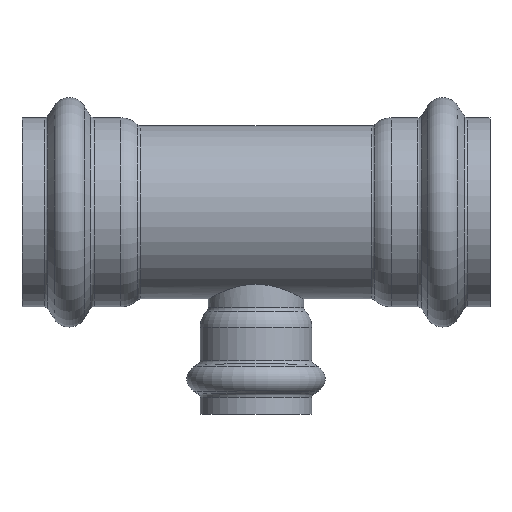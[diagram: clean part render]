
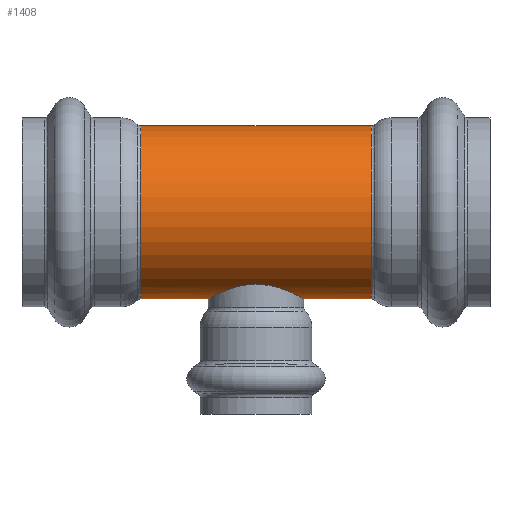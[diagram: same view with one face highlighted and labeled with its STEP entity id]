
A CAD part, top view. The second image highlights one B-rep face of the part: STEP entity #1408.
In plain terms, the highlighted cylindrical face has radius 30.163 mm (diameter 60.325 mm), a full revolution.
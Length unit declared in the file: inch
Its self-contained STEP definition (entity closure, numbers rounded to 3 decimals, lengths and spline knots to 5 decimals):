
#134=FACE_OUTER_BOUND('',#197,.T.);
#197=EDGE_LOOP('',(#1132,#1133,#1134,#1135,#1136,#1137,#1138,#1139,#1140,
#1141,#1142,#1143,#1144,#1145));
#334=CIRCLE('',#1605,1.1875);
#335=CIRCLE('',#1606,1.1875);
#336=CIRCLE('',#1607,1.1875);
#337=CIRCLE('',#1609,1.1875);
#338=CIRCLE('',#1610,1.1875);
#339=CIRCLE('',#1611,1.1875);
#420=LINE('',#2662,#450);
#421=LINE('',#2663,#451);
#450=VECTOR('',#2052,1.1875);
#451=VECTOR('',#2053,1.1875);
#460=B_SPLINE_CURVE_WITH_KNOTS('',3,(#2252,#2253,#2254,#2255,#2256,#2257,
#2258,#2259,#2260,#2261,#2262,#2263,#2264,#2265,#2266,#2267),
 .UNSPECIFIED.,.F.,.F.,(4,2,2,2,2,2,2,4),(0.,0.32343,0.64685,
1.29371,1.61572,1.93773,2.25974,2.58175),
 .UNSPECIFIED.);
#461=B_SPLINE_CURVE_WITH_KNOTS('',3,(#2269,#2270,#2271,#2272,#2273,#2274,
#2275,#2276,#2277,#2278,#2279,#2280,#2281,#2282,#2283,#2284),
 .UNSPECIFIED.,.F.,.F.,(4,2,2,2,2,2,2,4),(7.74526,8.06727,
8.38928,8.71129,9.0333,9.68016,10.00358,
10.32701),.UNSPECIFIED.);
#462=B_SPLINE_CURVE_WITH_KNOTS('',3,(#2286,#2287,#2288,#2289,#2290,#2291,
#2292,#2293,#2294,#2295,#2296,#2297,#2298,#2299,#2300,#2301),
 .UNSPECIFIED.,.F.,.F.,(4,2,2,2,2,2,2,4),(5.16351,5.48693,
5.81036,6.45721,6.77923,7.10124,7.42325,
7.74526),.UNSPECIFIED.);
#463=B_SPLINE_CURVE_WITH_KNOTS('',3,(#2307,#2308,#2309,#2310,#2311,#2312,
#2313,#2314,#2315,#2316,#2317,#2318,#2319,#2320,#2321,#2322),
 .UNSPECIFIED.,.F.,.F.,(4,2,2,2,2,2,2,4),(2.58175,2.90376,
3.22577,3.54778,3.8698,4.51665,4.84008,
5.16351),.UNSPECIFIED.);
#468=VERTEX_POINT('',#2250);
#469=VERTEX_POINT('',#2251);
#470=VERTEX_POINT('',#2268);
#471=VERTEX_POINT('',#2285);
#572=VERTEX_POINT('',#2649);
#573=VERTEX_POINT('',#2651);
#574=VERTEX_POINT('',#2653);
#575=VERTEX_POINT('',#2657);
#576=VERTEX_POINT('',#2658);
#577=VERTEX_POINT('',#2660);
#628=EDGE_CURVE('',#468,#469,#460,.T.);
#629=EDGE_CURVE('',#470,#468,#461,.T.);
#630=EDGE_CURVE('',#471,#470,#462,.T.);
#634=EDGE_CURVE('',#469,#471,#463,.T.);
#772=EDGE_CURVE('',#573,#572,#334,.T.);
#773=EDGE_CURVE('',#574,#573,#335,.T.);
#774=EDGE_CURVE('',#572,#574,#336,.T.);
#775=EDGE_CURVE('',#575,#576,#337,.T.);
#776=EDGE_CURVE('',#577,#575,#338,.T.);
#777=EDGE_CURVE('',#577,#469,#420,.T.);
#778=EDGE_CURVE('',#470,#574,#421,.T.);
#779=EDGE_CURVE('',#576,#577,#339,.T.);
#1132=ORIENTED_EDGE('',*,*,#775,.F.);
#1133=ORIENTED_EDGE('',*,*,#776,.F.);
#1134=ORIENTED_EDGE('',*,*,#777,.T.);
#1135=ORIENTED_EDGE('',*,*,#634,.T.);
#1136=ORIENTED_EDGE('',*,*,#630,.T.);
#1137=ORIENTED_EDGE('',*,*,#778,.T.);
#1138=ORIENTED_EDGE('',*,*,#773,.T.);
#1139=ORIENTED_EDGE('',*,*,#772,.T.);
#1140=ORIENTED_EDGE('',*,*,#774,.T.);
#1141=ORIENTED_EDGE('',*,*,#778,.F.);
#1142=ORIENTED_EDGE('',*,*,#629,.T.);
#1143=ORIENTED_EDGE('',*,*,#628,.T.);
#1144=ORIENTED_EDGE('',*,*,#777,.F.);
#1145=ORIENTED_EDGE('',*,*,#779,.F.);
#1299=CYLINDRICAL_SURFACE('',#1608,1.1875);
#1408=ADVANCED_FACE('',(#134),#1299,.T.);
#1605=AXIS2_PLACEMENT_3D('',#2652,#2040,#2041);
#1606=AXIS2_PLACEMENT_3D('',#2654,#2042,#2043);
#1607=AXIS2_PLACEMENT_3D('',#2655,#2044,#2045);
#1608=AXIS2_PLACEMENT_3D('',#2656,#2046,#2047);
#1609=AXIS2_PLACEMENT_3D('',#2659,#2048,#2049);
#1610=AXIS2_PLACEMENT_3D('',#2661,#2050,#2051);
#1611=AXIS2_PLACEMENT_3D('',#2664,#2054,#2055);
#2040=DIRECTION('center_axis',(1.,0.,0.));
#2041=DIRECTION('ref_axis',(0.,1.,0.));
#2042=DIRECTION('center_axis',(1.,0.,0.));
#2043=DIRECTION('ref_axis',(0.,1.,0.));
#2044=DIRECTION('center_axis',(1.,0.,0.));
#2045=DIRECTION('ref_axis',(0.,1.,0.));
#2046=DIRECTION('center_axis',(1.,0.,0.));
#2047=DIRECTION('ref_axis',(0.,1.,0.));
#2048=DIRECTION('center_axis',(1.,0.,0.));
#2049=DIRECTION('ref_axis',(0.,1.,0.));
#2050=DIRECTION('center_axis',(1.,0.,0.));
#2051=DIRECTION('ref_axis',(0.,1.,0.));
#2052=DIRECTION('',(-1.,0.,0.));
#2053=DIRECTION('',(-1.,0.,0.));
#2054=DIRECTION('center_axis',(1.,0.,0.));
#2055=DIRECTION('ref_axis',(0.,1.,0.));
#2250=CARTESIAN_POINT('',(0.,-0.98886,0.6575));
#2251=CARTESIAN_POINT('',(0.6575,-1.1875,0.));
#2252=CARTESIAN_POINT('Ctrl Pts',(0.,-0.98886,
0.6575));
#2253=CARTESIAN_POINT('Ctrl Pts',(0.04244,-0.98886,
0.6575));
#2254=CARTESIAN_POINT('Ctrl Pts',(0.08592,-0.99168,
0.65333));
#2255=CARTESIAN_POINT('Ctrl Pts',(0.17166,-1.00275,0.6362));
#2256=CARTESIAN_POINT('Ctrl Pts',(0.21393,-1.01099,0.62326));
#2257=CARTESIAN_POINT('Ctrl Pts',(0.3348,-1.04108,0.57258));
#2258=CARTESIAN_POINT('Ctrl Pts',(0.40744,-1.06825,0.5224));
#2259=CARTESIAN_POINT('Ctrl Pts',(0.49354,-1.10488,0.43631));
#2260=CARTESIAN_POINT('Ctrl Pts',(0.52056,-1.11731,0.40392));
#2261=CARTESIAN_POINT('Ctrl Pts',(0.56851,-1.14044,0.33307));
#2262=CARTESIAN_POINT('Ctrl Pts',(0.58944,-1.15112,0.2946));
#2263=CARTESIAN_POINT('Ctrl Pts',(0.6233,-1.16882,0.21383));
#2264=CARTESIAN_POINT('Ctrl Pts',(0.63626,-1.17585,0.17146));
#2265=CARTESIAN_POINT('Ctrl Pts',(0.65336,-1.18519,0.08567));
#2266=CARTESIAN_POINT('Ctrl Pts',(0.6575,-1.1875,0.04226));
#2267=CARTESIAN_POINT('Ctrl Pts',(0.6575,-1.1875,0.));
#2268=CARTESIAN_POINT('',(-0.6575,-1.1875,0.));
#2269=CARTESIAN_POINT('Ctrl Pts',(-0.6575,-1.1875,0.));
#2270=CARTESIAN_POINT('Ctrl Pts',(-0.6575,-1.1875,0.04226));
#2271=CARTESIAN_POINT('Ctrl Pts',(-0.65336,-1.18519,
0.08567));
#2272=CARTESIAN_POINT('Ctrl Pts',(-0.63626,-1.17585,
0.17146));
#2273=CARTESIAN_POINT('Ctrl Pts',(-0.6233,-1.16882,
0.21383));
#2274=CARTESIAN_POINT('Ctrl Pts',(-0.58944,-1.15112,0.2946));
#2275=CARTESIAN_POINT('Ctrl Pts',(-0.56851,-1.14044,
0.33307));
#2276=CARTESIAN_POINT('Ctrl Pts',(-0.52056,-1.11731,
0.40392));
#2277=CARTESIAN_POINT('Ctrl Pts',(-0.49354,-1.10488,
0.43631));
#2278=CARTESIAN_POINT('Ctrl Pts',(-0.40744,-1.06825,0.5224));
#2279=CARTESIAN_POINT('Ctrl Pts',(-0.3348,-1.04108,
0.57258));
#2280=CARTESIAN_POINT('Ctrl Pts',(-0.21393,-1.01099,
0.62326));
#2281=CARTESIAN_POINT('Ctrl Pts',(-0.17166,-1.00275,
0.6362));
#2282=CARTESIAN_POINT('Ctrl Pts',(-0.08592,-0.99168,
0.65333));
#2283=CARTESIAN_POINT('Ctrl Pts',(-0.04244,-0.98886,
0.6575));
#2284=CARTESIAN_POINT('Ctrl Pts',(0.,-0.98886,
0.6575));
#2285=CARTESIAN_POINT('',(0.,-0.98886,-0.6575));
#2286=CARTESIAN_POINT('Ctrl Pts',(0.,-0.98886,
-0.6575));
#2287=CARTESIAN_POINT('Ctrl Pts',(-0.04244,-0.98886,
-0.6575));
#2288=CARTESIAN_POINT('Ctrl Pts',(-0.08592,-0.99168,
-0.65333));
#2289=CARTESIAN_POINT('Ctrl Pts',(-0.17166,-1.00275,
-0.6362));
#2290=CARTESIAN_POINT('Ctrl Pts',(-0.21393,-1.01099,
-0.62326));
#2291=CARTESIAN_POINT('Ctrl Pts',(-0.3348,-1.04108,
-0.57258));
#2292=CARTESIAN_POINT('Ctrl Pts',(-0.40744,-1.06825,-0.5224));
#2293=CARTESIAN_POINT('Ctrl Pts',(-0.49354,-1.10488,
-0.43631));
#2294=CARTESIAN_POINT('Ctrl Pts',(-0.52056,-1.11731,
-0.40392));
#2295=CARTESIAN_POINT('Ctrl Pts',(-0.56851,-1.14044,
-0.33307));
#2296=CARTESIAN_POINT('Ctrl Pts',(-0.58944,-1.15112,-0.2946));
#2297=CARTESIAN_POINT('Ctrl Pts',(-0.6233,-1.16882,
-0.21383));
#2298=CARTESIAN_POINT('Ctrl Pts',(-0.63626,-1.17585,
-0.17146));
#2299=CARTESIAN_POINT('Ctrl Pts',(-0.65336,-1.18519,
-0.08567));
#2300=CARTESIAN_POINT('Ctrl Pts',(-0.6575,-1.1875,-0.04226));
#2301=CARTESIAN_POINT('Ctrl Pts',(-0.6575,-1.1875,0.));
#2307=CARTESIAN_POINT('Ctrl Pts',(0.6575,-1.1875,0.));
#2308=CARTESIAN_POINT('Ctrl Pts',(0.6575,-1.1875,-0.04226));
#2309=CARTESIAN_POINT('Ctrl Pts',(0.65336,-1.18519,-0.08567));
#2310=CARTESIAN_POINT('Ctrl Pts',(0.63626,-1.17585,-0.17146));
#2311=CARTESIAN_POINT('Ctrl Pts',(0.6233,-1.16882,-0.21383));
#2312=CARTESIAN_POINT('Ctrl Pts',(0.58944,-1.15112,-0.2946));
#2313=CARTESIAN_POINT('Ctrl Pts',(0.56851,-1.14044,-0.33307));
#2314=CARTESIAN_POINT('Ctrl Pts',(0.52056,-1.11731,-0.40392));
#2315=CARTESIAN_POINT('Ctrl Pts',(0.49354,-1.10488,-0.43631));
#2316=CARTESIAN_POINT('Ctrl Pts',(0.40744,-1.06825,-0.5224));
#2317=CARTESIAN_POINT('Ctrl Pts',(0.3348,-1.04108,-0.57258));
#2318=CARTESIAN_POINT('Ctrl Pts',(0.21393,-1.01099,-0.62326));
#2319=CARTESIAN_POINT('Ctrl Pts',(0.17166,-1.00275,-0.6362));
#2320=CARTESIAN_POINT('Ctrl Pts',(0.08592,-0.99168,
-0.65333));
#2321=CARTESIAN_POINT('Ctrl Pts',(0.04244,-0.98886,
-0.6575));
#2322=CARTESIAN_POINT('Ctrl Pts',(0.,-0.98886,-0.6575));
#2649=CARTESIAN_POINT('',(-1.58035,0.,1.1875));
#2651=CARTESIAN_POINT('',(-1.58035,1.1875,0.));
#2652=CARTESIAN_POINT('Origin',(-1.58035,0.,0.));
#2653=CARTESIAN_POINT('',(-1.58035,-1.1875,0.));
#2654=CARTESIAN_POINT('Origin',(-1.58035,0.,0.));
#2655=CARTESIAN_POINT('Origin',(-1.58035,0.,0.));
#2656=CARTESIAN_POINT('Origin',(0.79018,0.,0.));
#2657=CARTESIAN_POINT('',(1.58035,1.1875,0.));
#2658=CARTESIAN_POINT('',(1.58035,0.,1.1875));
#2659=CARTESIAN_POINT('Origin',(1.58035,0.,0.));
#2660=CARTESIAN_POINT('',(1.58035,-1.1875,0.));
#2661=CARTESIAN_POINT('Origin',(1.58035,0.,0.));
#2662=CARTESIAN_POINT('',(0.79018,-1.1875,0.));
#2663=CARTESIAN_POINT('',(0.79018,-1.1875,0.));
#2664=CARTESIAN_POINT('Origin',(1.58035,0.,0.));
